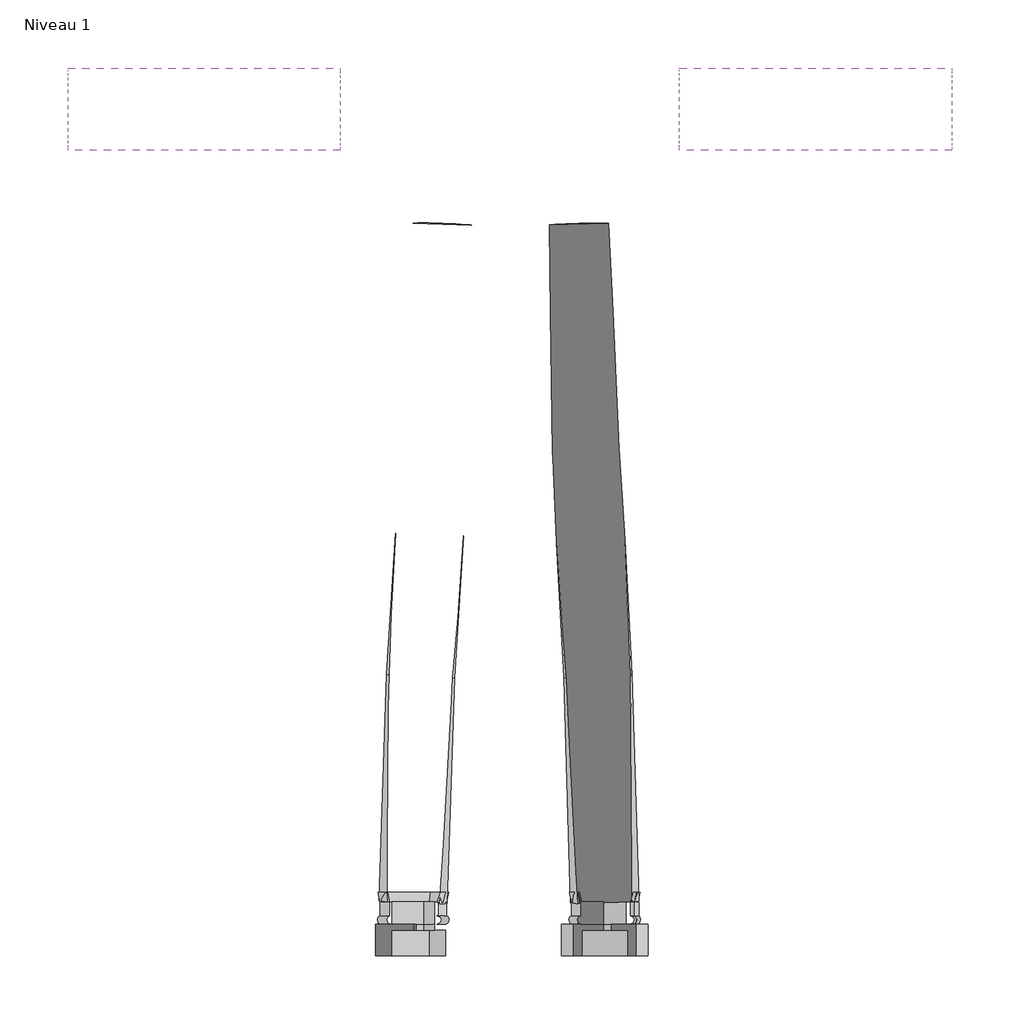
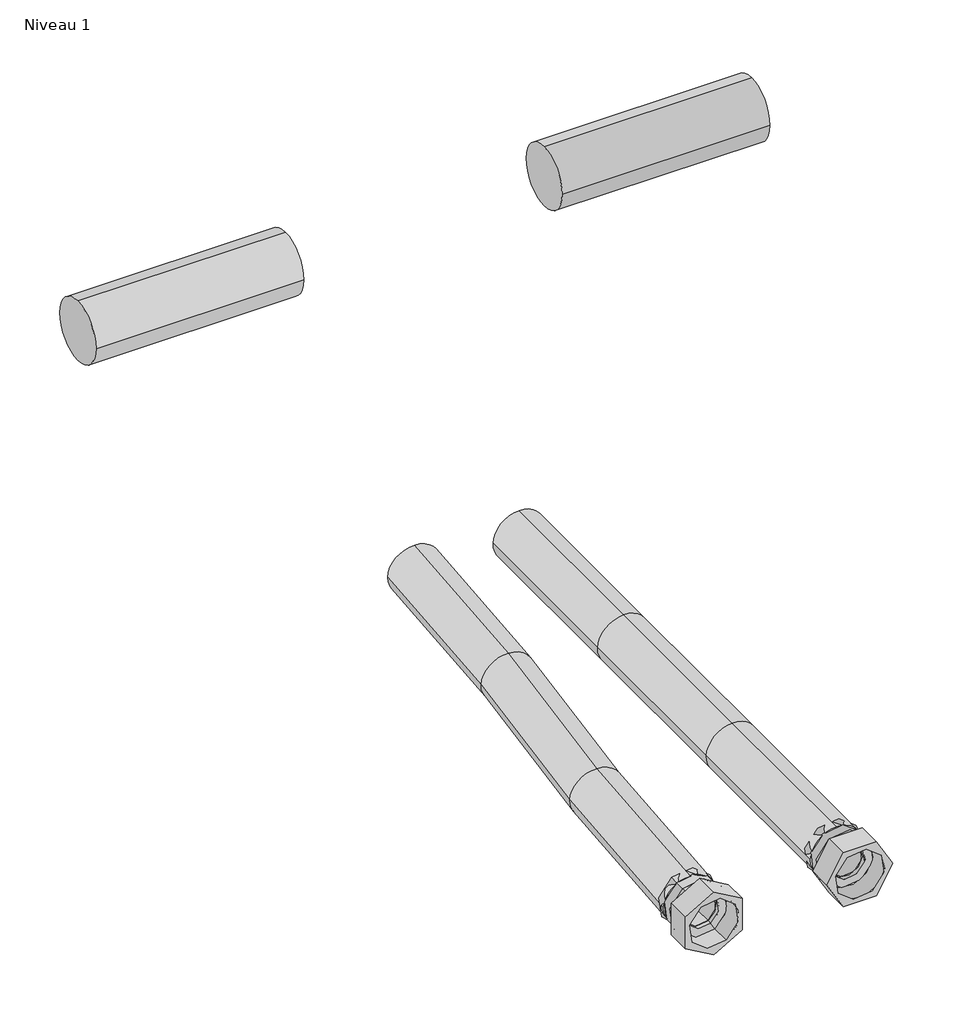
# One storey, incomplete: 4 pipe segments, 2 pipe fittings.
"""IFC4 building model written with IfcOpenShell, lengths in millimetres."""

from ifc_helpers import new_model, si_unit, point, frame, frame_2d, origin, place, context, project, spatial, circle_curve, ellipse_curve, trimmed, segment, composite_curve, outline, extrude, transform, mapped, element, save
from ifc_brep_helpers import plane_surface, cylinder_surface, advanced_brep
from components import pipe_fitting_73059a0c

model = new_model("IFC4")

# Units and contexts
model_context = context("Model", 3, world=origin())
ifc_project = project(units=[si_unit("LENGTHUNIT", "METRE", prefix="MILLI")], contexts=[model_context])

# Site, building, storey
site = spatial("IfcSite", under=ifc_project)
building = spatial("IfcBuilding", under=site)
storey = spatial("IfcBuildingStorey", under=building, Name="Niveau 1", Elevation=0.0)

# Pipe fittings
placement = place(None, origin())
pipe_fitting_shape = pipe_fitting_73059a0c(model_context)
element("IfcPipeFitting", 1, ObjectType="BWT_Raccord Aval : BWT_Raccord Aval", at=placement, inside=storey, context=model_context, shape_type="MappedRepresentation", body=[
    mapped(pipe_fitting_shape, transform((-1358.5700982, -2754.9395637, 1184.2), x_axis=(0.8660254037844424, 0.0, 0.499999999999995), y_axis=(0.0, 1.0000000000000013, 0.0), z_axis=(-0.49999999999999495, 0.0, 0.8660254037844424))),
])
element("IfcPipeFitting", 2, ObjectType="BWT_Raccord Aval : BWT_Raccord Aval", at=placement, inside=storey, context=model_context, shape_type="MappedRepresentation", body=[
    mapped(pipe_fitting_shape, transform((-1217.8452759, -2754.9395637, 1185.1292365), x_axis=(0.49999999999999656, -0.00010774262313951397, -0.8660253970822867), y_axis=(0.0, 0.9999999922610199, -0.00012441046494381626), z_axis=(0.8660254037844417, 6.220523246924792e-05, 0.4999999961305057))),
])

# Pipe segments
element("IfcPipeSegment", 3, ObjectType="Souple - Circulaire", at=placement, inside=storey, context=model_context, shape_type="AdvancedBrep", body=[
    advanced_brep(
    [(-1383.556161, -2714.433025, 1184.2), (-1358.533465, -2714.1710566, 1159.2240904), (-1333.5840353, -2716.1023506, 1184.2), (-1358.6067313, -2716.3643189, 1209.1759096), (-1378.0037232, -2548.2179266, 1191.5062429), (-1352.9772864, -2547.8439748, 1166.5352558), (-1328.0554349, -2550.6008373, 1191.4748762), (-1353.0818717, -2550.9747891, 1216.4458633), (-1362.1855874, -2217.136481, 1212.3207297), (-1337.2361576, -2219.067775, 1237.2966393), (-1312.2134616, -2218.8058066, 1212.3207297), (-1337.1628914, -2216.8745126, 1187.3448202), (-1367.7141878, -2382.6379943, 1205.0458536), (-1342.687751, -2382.2640425, 1180.0748664), (-1317.7658994, -2385.020905, 1205.0144868), (-1342.7923362, -2385.3948568, 1229.985474)],
    [
        (0, 1, circle_curve(frame((-1358.5700982, -2715.2676878, 1184.2), z_axis=(-0.033354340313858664, -0.9984794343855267, -0.043889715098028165), x_axis=(-0.9994425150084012, 0.03338651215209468, 0.0)), 25.0)),
        (1, 2, circle_curve(frame((-1358.5700982, -2715.2676878, 1184.2), z_axis=(-0.033354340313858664, -0.9984794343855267, -0.043889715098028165), x_axis=(-0.9994425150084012, 0.03338651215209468, 0.0)), 25.0)),
        (2, 3, circle_curve(frame((-1358.5700982, -2715.2676878, 1184.2), z_axis=(-0.033354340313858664, -0.9984794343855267, -0.043889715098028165), x_axis=(-0.9994425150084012, 0.03338651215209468, 0.0)), 25.0)),
        (3, 0, circle_curve(frame((-1358.5700982, -2715.2676878, 1184.2), z_axis=(-0.033354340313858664, -0.9984794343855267, -0.043889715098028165), x_axis=(-0.9994425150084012, 0.03338651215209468, 0.0)), 25.0)),
        (0, 4),
        (4, 5, ellipse_curve(frame((-1353.0295791, -2549.4093819, 1191.4905596), z_axis=(-0.047599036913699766, -0.9969008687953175, -0.06263377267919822), x_axis=(0.6031869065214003, -0.07866802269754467, 0.7937108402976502)), 25.0069612, 25.0)),
        (5, 1),
        (5, 6, ellipse_curve(frame((-1353.0295791, -2549.4093819, 1191.4905596), z_axis=(-0.047599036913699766, -0.9969008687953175, -0.06263377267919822), x_axis=(0.6031869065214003, -0.07866802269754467, 0.7937108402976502)), 25.0069612, 25.0)),
        (6, 2),
        (6, 7, ellipse_curve(frame((-1353.0295791, -2549.4093819, 1191.4905596), z_axis=(-0.047599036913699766, -0.9969008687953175, -0.06263377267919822), x_axis=(0.6031869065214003, -0.07866802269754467, 0.7937108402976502)), 25.0069612, 25.0)),
        (7, 3),
        (7, 4, ellipse_curve(frame((-1353.0295791, -2549.4093819, 1191.4905596), z_axis=(-0.047599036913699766, -0.9969008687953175, -0.06263377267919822), x_axis=(0.6031869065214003, -0.07866802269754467, 0.7937108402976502)), 25.0069612, 25.0)),
        (8, 9, circle_curve(frame((-1337.1995245, -2217.9711438, 1212.3207297), z_axis=(0.03335434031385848, 0.9984794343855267, 0.04388971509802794), x_axis=(-0.9994425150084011, 0.03338651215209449, 0.0)), 25.0)),
        (9, 10, circle_curve(frame((-1337.1995245, -2217.9711438, 1212.3207297), z_axis=(0.03335434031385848, 0.9984794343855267, 0.04388971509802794), x_axis=(-0.9994425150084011, 0.03338651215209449, 0.0)), 25.0)),
        (10, 11, circle_curve(frame((-1337.1995245, -2217.9711438, 1212.3207297), z_axis=(0.03335434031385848, 0.9984794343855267, 0.04388971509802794), x_axis=(-0.9994425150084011, 0.03338651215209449, 0.0)), 25.0)),
        (11, 8, circle_curve(frame((-1337.1995245, -2217.9711438, 1212.3207297), z_axis=(0.03335434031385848, 0.9984794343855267, 0.04388971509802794), x_axis=(-0.9994425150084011, 0.03338651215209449, 0.0)), 25.0)),
        (4, 12),
        (12, 13, ellipse_curve(frame((-1342.7400436, -2383.8294496, 1205.0301702), z_axis=(-0.047599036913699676, -0.9969008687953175, -0.0626337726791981), x_axis=(-0.6031869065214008, 0.07866802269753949, -0.7937108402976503)), 25.0069612, 25.0)),
        (13, 5),
        (13, 14, ellipse_curve(frame((-1342.7400436, -2383.8294496, 1205.0301702), z_axis=(-0.047599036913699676, -0.9969008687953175, -0.0626337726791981), x_axis=(-0.6031869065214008, 0.07866802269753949, -0.7937108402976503)), 25.0069612, 25.0)),
        (14, 6),
        (14, 15, ellipse_curve(frame((-1342.7400436, -2383.8294496, 1205.0301702), z_axis=(-0.047599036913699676, -0.9969008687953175, -0.0626337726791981), x_axis=(-0.6031869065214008, 0.07866802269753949, -0.7937108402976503)), 25.0069612, 25.0)),
        (15, 7),
        (15, 12, ellipse_curve(frame((-1342.7400436, -2383.8294496, 1205.0301702), z_axis=(-0.047599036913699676, -0.9969008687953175, -0.0626337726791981), x_axis=(-0.6031869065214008, 0.07866802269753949, -0.7937108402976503)), 25.0069612, 25.0)),
        (12, 8),
        (11, 13),
        (10, 14),
        (9, 15),
    ],
    [
        plane_surface(frame((-1358.5700982, -2716.3655415, 1209.1758827), z_axis=(-0.03335434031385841, -0.9984794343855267, -0.04388971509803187), x_axis=(0.9994435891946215, -0.03332216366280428, -0.0014647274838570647))),
        cylinder_surface(frame((-1358.5700982, -2715.2676878, 1184.2), z_axis=(-0.03335434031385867, -0.9984794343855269, -0.04388971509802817), x_axis=(-0.9994425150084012, 0.03338651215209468, 0.0)), 25.0),
        plane_surface(frame((-1337.1995245, -2219.0689976, 1237.2966125), z_axis=(0.03335434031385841, 0.9984794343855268, 0.04388971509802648), x_axis=(0.9994435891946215, -0.03332216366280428, -0.0014647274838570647))),
        cylinder_surface(frame((-1353.0295791, -2549.4093819, 1191.4905596), z_axis=(-0.061817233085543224, -0.9947672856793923, -0.08134295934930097), x_axis=(-0.9980821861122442, 0.06187685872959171, 0.0017900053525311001)), 25.0),
        cylinder_surface(frame((-1342.7400436, -2383.8294496, 1205.0301702), z_axis=(-0.03335434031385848, -0.9984794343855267, -0.04388971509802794), x_axis=(-0.9994425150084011, 0.03338651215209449, 0.0)), 25.0),
    ],
    [
        (0, [[1, 2, 3, 4]]),
        (1, [[-1, 5, 6, 7]]),
        (1, [[-2, -7, 8, 9]]),
        (1, [[-3, -9, 10, 11]]),
        (1, [[-4, -11, 12, -5]]),
        (2, [[13, 14, 15, 16]]),
        (3, [[-6, 17, 18, 19]]),
        (3, [[-8, -19, 20, 21]]),
        (3, [[-10, -21, 22, 23]]),
        (3, [[-12, -23, 24, -17]]),
        (4, [[-18, 25, -16, 26]]),
        (4, [[-20, -26, -15, 27]]),
        (4, [[-22, -27, -14, 28]]),
        (4, [[-24, -28, -13, -25]]),
    ],
),
])
element("IfcPipeSegment", 4, ObjectType="Souple - Circulaire", at=placement, inside=storey, context=model_context, shape_type="AdvancedBrep", body=[
    advanced_brep(
    [(-1242.8344773, -2716.0024084, 1185.1243009), (-1217.8764301, -2714.2080765, 1160.1467859), (-1192.8560745, -2714.5329677, 1185.1243009), (-1217.8141217, -2716.3272997, 1210.1018158), (-1247.701389, -2550.4697226, 1192.1527014), (-1222.7659483, -2547.9065005, 1167.207833), (-1197.7414604, -2548.371941, 1192.1793803), (-1222.676901, -2550.9351631, 1217.1242487), (-1261.6424797, -2218.7058653, 1212.3207558), (-1236.6220372, -2219.0328243, 1237.2981567), (-1211.664077, -2217.2364223, 1212.3207037), (-1236.6845194, -2216.9094633, 1187.3433028), (-1256.7570939, -2384.8668917, 1205.2518713), (-1231.8217096, -2382.3026377, 1180.3070845), (-1206.7971653, -2382.7691102, 1205.2785502), (-1231.7325495, -2385.3333642, 1230.223337)],
    [
        (0, 1, circle_curve(frame((-1217.8452759, -2715.2676881, 1185.1243009), z_axis=(0.029362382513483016, -0.9986690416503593, -0.04240277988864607), x_axis=(-0.999568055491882, -0.02938881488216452, 0.0)), 25.0)),
        (1, 2, circle_curve(frame((-1217.8452759, -2715.2676881, 1185.1243009), z_axis=(0.029362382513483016, -0.9986690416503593, -0.04240277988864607), x_axis=(-0.999568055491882, -0.02938881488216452, 0.0)), 25.0)),
        (2, 3, circle_curve(frame((-1217.8452759, -2715.2676881, 1185.1243009), z_axis=(0.029362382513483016, -0.9986690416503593, -0.04240277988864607), x_axis=(-0.999568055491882, -0.02938881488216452, 0.0)), 25.0)),
        (3, 0, circle_curve(frame((-1217.8452759, -2715.2676881, 1185.1243009), z_axis=(0.029362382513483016, -0.9986690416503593, -0.04240277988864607), x_axis=(-0.999568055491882, -0.02938881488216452, 0.0)), 25.0)),
        (0, 4),
        (4, 5, ellipse_curve(frame((-1222.7214247, -2549.4208318, 1192.1660409), z_axis=(0.04190754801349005, -0.9972829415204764, -0.06058458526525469), x_axis=(-0.5663728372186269, -0.0736663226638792, 0.820850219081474)), 25.006125, 25.0)),
        (5, 1),
        (5, 6, ellipse_curve(frame((-1222.7214247, -2549.4208318, 1192.1660409), z_axis=(0.04190754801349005, -0.9972829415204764, -0.06058458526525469), x_axis=(-0.5663728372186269, -0.0736663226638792, 0.820850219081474)), 25.006125, 25.0)),
        (6, 2),
        (6, 7, ellipse_curve(frame((-1222.7214247, -2549.4208318, 1192.1660409), z_axis=(0.04190754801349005, -0.9972829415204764, -0.06058458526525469), x_axis=(-0.5663728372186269, -0.0736663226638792, 0.820850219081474)), 25.006125, 25.0)),
        (7, 3),
        (7, 4, ellipse_curve(frame((-1222.7214247, -2549.4208318, 1192.1660409), z_axis=(0.04190754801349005, -0.9972829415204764, -0.06058458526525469), x_axis=(-0.5663728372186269, -0.0736663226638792, 0.820850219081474)), 25.006125, 25.0)),
        (8, 9, circle_curve(frame((-1236.6532783, -2217.9711438, 1212.3207297), z_axis=(-0.029362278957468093, 0.9986655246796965, 0.042485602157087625), x_axis=(-0.999568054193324, -0.029388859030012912, 1.042205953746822e-06)), 25.0)),
        (9, 10, circle_curve(frame((-1236.6532783, -2217.9711438, 1212.3207297), z_axis=(-0.029362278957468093, 0.9986655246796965, 0.042485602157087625), x_axis=(-0.999568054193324, -0.029388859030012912, 1.042205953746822e-06)), 25.0)),
        (10, 11, circle_curve(frame((-1236.6532783, -2217.9711438, 1212.3207297), z_axis=(-0.029362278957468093, 0.9986655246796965, 0.042485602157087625), x_axis=(-0.999568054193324, -0.029388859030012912, 1.042205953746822e-06)), 25.0)),
        (11, 8, circle_curve(frame((-1236.6532783, -2217.9711438, 1212.3207297), z_axis=(-0.029362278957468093, 0.9986655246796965, 0.042485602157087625), x_axis=(-0.999568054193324, -0.029388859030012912, 1.042205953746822e-06)), 25.0)),
        (4, 12),
        (12, 13, ellipse_curve(frame((-1231.7771296, -2383.8180009, 1205.2652107), z_axis=(0.04190746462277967, -0.9972804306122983, -0.060625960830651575), x_axis=(0.5672486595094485, 0.07370035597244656, -0.8202421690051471)), 25.0061062, 25.0)),
        (13, 5),
        (13, 14, ellipse_curve(frame((-1231.7771296, -2383.8180009, 1205.2652107), z_axis=(0.04190746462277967, -0.9972804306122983, -0.060625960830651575), x_axis=(0.5672486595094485, 0.07370035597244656, -0.8202421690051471)), 25.0061062, 25.0)),
        (14, 6),
        (14, 15, ellipse_curve(frame((-1231.7771296, -2383.8180009, 1205.2652107), z_axis=(0.04190746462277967, -0.9972804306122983, -0.060625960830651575), x_axis=(0.5672486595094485, 0.07370035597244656, -0.8202421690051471)), 25.0061062, 25.0)),
        (15, 7),
        (15, 12, ellipse_curve(frame((-1231.7771296, -2383.8180009, 1205.2652107), z_axis=(0.04190746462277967, -0.9972804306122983, -0.060625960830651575), x_axis=(0.5672486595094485, 0.07370035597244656, -0.8202421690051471)), 25.0061062, 25.0)),
        (12, 8),
        (11, 13),
        (10, 14),
        (9, 15),
    ],
    [
        plane_surface(frame((-1217.8452759, -2716.3282148, 1210.1017964), z_axis=(0.0293623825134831, -0.9986690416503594, -0.042402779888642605), x_axis=(0.9995688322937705, 0.029335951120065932, 0.0012455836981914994))),
        cylinder_surface(frame((-1217.8452759, -2715.2676881, 1185.1243009), z_axis=(0.029362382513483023, -0.9986690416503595, -0.042402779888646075), x_axis=(-0.999568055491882, -0.02938881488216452, 0.0)), 25.0),
        plane_surface(frame((-1236.6532783, -2219.033742, 1237.2981372), z_axis=(-0.02936227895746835, 0.9986655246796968, 0.04248560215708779), x_axis=(0.9995688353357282, 0.029335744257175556, 0.0012480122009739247))),
        cylinder_surface(frame((-1222.7214247, -2549.4208318, 1192.1660409), z_axis=(0.05443218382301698, -0.9954082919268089, -0.07873671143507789), x_axis=(-0.9985136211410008, -0.05448141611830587, -0.0015243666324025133)), 25.0),
        cylinder_surface(frame((-1231.7771296, -2383.8180009, 1205.2652107), z_axis=(0.029362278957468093, -0.9986655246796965, -0.042485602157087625), x_axis=(-0.999568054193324, -0.029388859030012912, 1.042205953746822e-06)), 25.0),
    ],
    [
        (0, [[1, 2, 3, 4]]),
        (1, [[-1, 5, 6, 7]]),
        (1, [[-2, -7, 8, 9]]),
        (1, [[-3, -9, 10, 11]]),
        (1, [[-4, -11, 12, -5]]),
        (2, [[13, 14, 15, 16]]),
        (3, [[-6, 17, 18, 19]]),
        (3, [[-8, -19, 20, 21]]),
        (3, [[-10, -21, 22, 23]]),
        (3, [[-12, -23, 24, -17]]),
        (4, [[-18, 25, -16, 26]]),
        (4, [[-20, -26, -15, 27]]),
        (4, [[-22, -27, -14, 28]]),
        (4, [[-24, -28, -13, -25]]),
    ],
),
])
element("IfcPipeSegment", 5, ObjectType="Standard", at=placement, inside=storey, context=model_context, shape_type="SweptSolid", body=[
    extrude(outline(composite_curve([segment(trimmed(circle_curve(frame_2d((-2133.0769881, 1500.0)), 30.1625), [point((-2163.2394881, 1500.0))], [point((-2133.0769881, 1530.1625))], False, "CARTESIAN"), True, "CONTINUOUS"), segment(trimmed(circle_curve(frame_2d((-2133.0769881, 1500.0)), 30.1625), [point((-2133.0769881, 1530.1625))], [point((-2102.9144881, 1500.0))], False, "CARTESIAN"), True, "CONTINUOUS"), segment(trimmed(circle_curve(frame_2d((-2133.0769881, 1500.0)), 30.1625), [point((-2102.9144881, 1500.0))], [point((-2133.0769881, 1469.8375))], False, "CARTESIAN"), True, "CONTINUOUS"), segment(trimmed(circle_curve(frame_2d((-2133.0769881, 1500.0)), 30.1625), [point((-2133.0769881, 1469.8375))], [point((-2163.2394881, 1500.0))], False, "CARTESIAN"), True, "CONTINUOUS")], self_intersect=False)), frame((-1162.8367099, 0.0, 0.0), z_axis=(1.0, 0.0, 0.0), x_axis=(0.0, 1.0, 0.0)), (0.0, 0.0, 1.0), 200.0),
])
element("IfcPipeSegment", 6, ObjectType="Standard", at=placement, inside=storey, context=model_context, shape_type="SweptSolid", body=[
    extrude(outline(composite_curve([segment(trimmed(circle_curve(frame_2d((-2133.0769881, 1500.0)), 30.1625), [point((-2102.9144881, 1500.0))], [point((-2133.0769881, 1469.8375))], False, "CARTESIAN"), True, "CONTINUOUS"), segment(trimmed(circle_curve(frame_2d((-2133.0769881, 1500.0)), 30.1625), [point((-2133.0769881, 1469.8375))], [point((-2163.2394881, 1500.0))], False, "CARTESIAN"), True, "CONTINUOUS"), segment(trimmed(circle_curve(frame_2d((-2133.0769881, 1500.0)), 30.1625), [point((-2163.2394881, 1500.0))], [point((-2133.0769881, 1530.1625))], False, "CARTESIAN"), True, "CONTINUOUS"), segment(trimmed(circle_curve(frame_2d((-2133.0769881, 1500.0)), 30.1625), [point((-2133.0769881, 1530.1625))], [point((-2102.9144881, 1500.0))], False, "CARTESIAN"), True, "CONTINUOUS")], self_intersect=False)), frame((-1612.1995245, 0.0, 0.0), z_axis=(1.0, 0.0, 0.0), x_axis=(0.0, 1.0, 0.0)), (0.0, 0.0, 1.0), 200.0),
])

save(model, "model.ifc")
